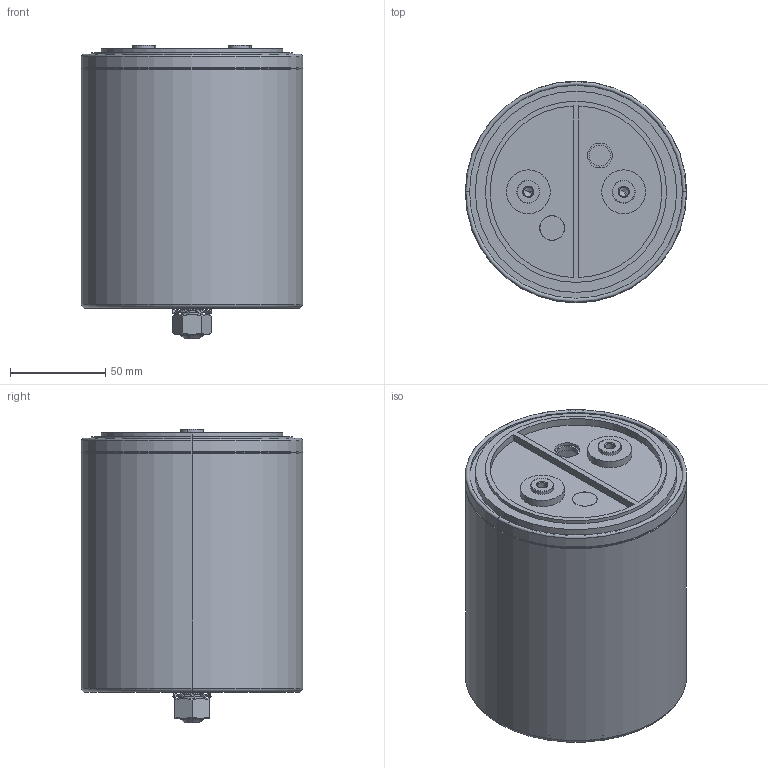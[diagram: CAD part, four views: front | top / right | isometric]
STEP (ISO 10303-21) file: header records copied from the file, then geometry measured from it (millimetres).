
FILE_DESCRIPTION (( 'STEP AP203' ), '1' );
FILE_NAME ('B25620Bx_116x132_138.STEP', '2021-07-01T03:58:35', ( '' ), ( '' ), 'SwSTEP 2.0', 'SolidWorks 2017', '' );
FILE_SCHEMA (( 'CONFIG_CONTROL_DESIGN' ));
Length unit declared in the file: millimetre
Products named in the file (1): B25620Bx_116x132_138
Bounding box: 116 x 116 x 154 mm (x, y, z)
Volume: 116059.5 mm3; surface area: 148274 mm2
Topology: 2 solids, 14 shells, 272 faces, 600 edges, 380 vertices
Faces by surface type: plane 110, cylinder 78, bspline 46, cone 20, torus 18
Entity records: 8493 total; most frequent: CARTESIAN_POINT 2593, ORIENTED_EDGE 1192, DIRECTION 1160, EDGE_CURVE 596, AXIS2_PLACEMENT_3D 433, VERTEX_POINT 380, EDGE_LOOP 302, LINE 294
